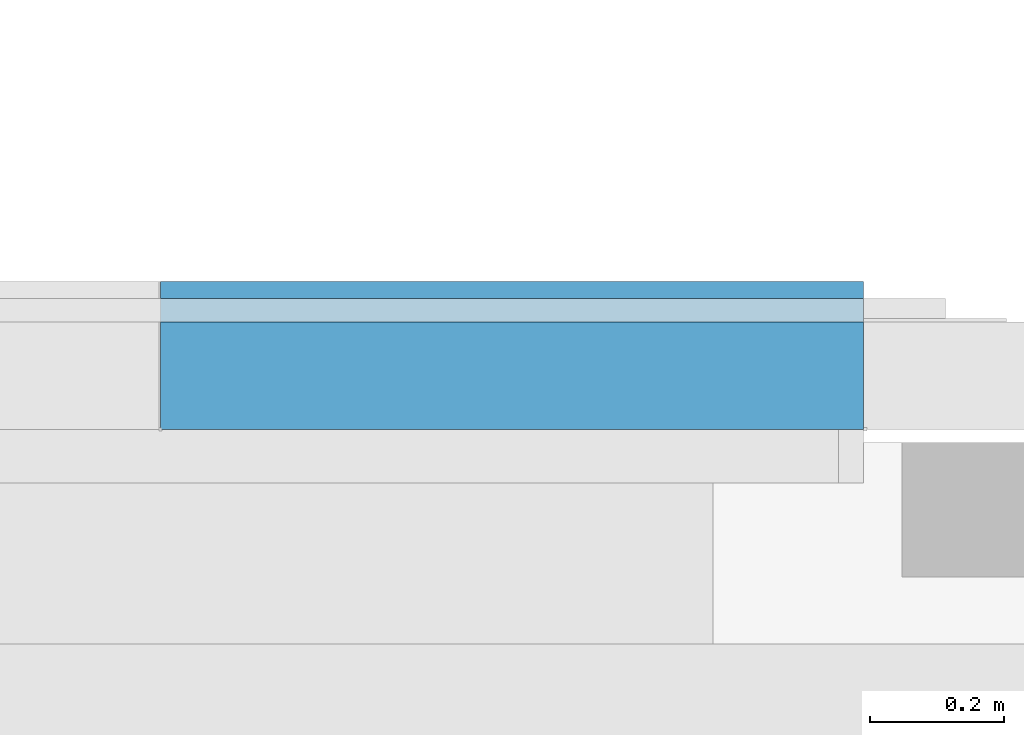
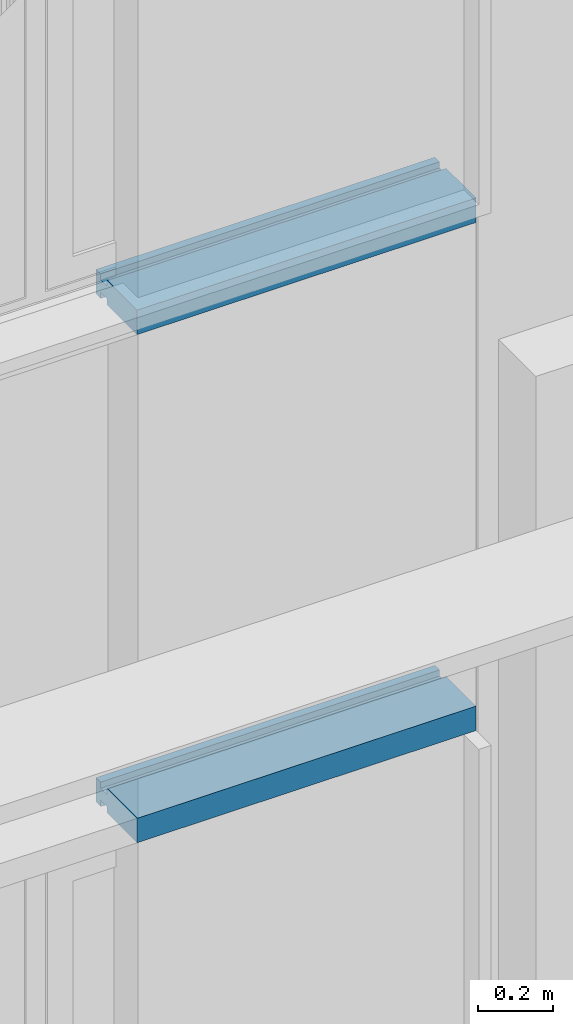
# One storey, part 127 of 302: 2 members, 1 element without a shape of its own.
"""IFC2X3 building model written with IfcOpenShell, lengths in metres."""

from ifc_helpers import new_model, entity, si_unit, converted_unit, derived_unit, direction, frame, origin, place, context, subcontext, project, spatial, polyline, outline, extrude, source, transform, mapped, material, type_object, type_shapes, element, aggregate, save


model = new_model("IFC2X3")

# Units and contexts
model_context = context("Model", 3, precision=1e-05, world=origin(), true_north=direction((6.12303176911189e-17, 1.0)))
body_context = subcontext(model_context, "Body", "Model", "MODEL_VIEW")
ifc_project = project(units=[si_unit("LENGTHUNIT", "METRE"), si_unit("AREAUNIT", "SQUARE_METRE"), si_unit("VOLUMEUNIT", "CUBIC_METRE"), converted_unit("PLANEANGLEUNIT", "DEGREE", entity("IfcRatioMeasure", 0.0174532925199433), si_unit("PLANEANGLEUNIT", "RADIAN"), dimensions=[0, 0, 0, 0, 0, 0, 0]), si_unit("MASSUNIT", "GRAM", prefix="KILO"), derived_unit("MASSDENSITYUNIT", [(si_unit("MASSUNIT", "GRAM", prefix="KILO"), 1), (si_unit("LENGTHUNIT", "METRE"), -3)]), derived_unit("MOMENTOFINERTIAUNIT", [(si_unit("LENGTHUNIT", "METRE"), 4)]), si_unit("TIMEUNIT", "SECOND"), si_unit("FREQUENCYUNIT", "HERTZ"), si_unit("THERMODYNAMICTEMPERATUREUNIT", "DEGREE_CELSIUS"), derived_unit("THERMALTRANSMITTANCEUNIT", [(si_unit("MASSUNIT", "GRAM", prefix="KILO"), 1), (si_unit("THERMODYNAMICTEMPERATUREUNIT", "KELVIN"), -1), (si_unit("TIMEUNIT", "SECOND"), -3)]), derived_unit("VOLUMETRICFLOWRATEUNIT", [(si_unit("LENGTHUNIT", "METRE"), 3), (si_unit("TIMEUNIT", "SECOND"), -1)]), si_unit("ELECTRICCURRENTUNIT", "AMPERE"), si_unit("ELECTRICVOLTAGEUNIT", "VOLT"), si_unit("POWERUNIT", "WATT"), si_unit("FORCEUNIT", "NEWTON", prefix="KILO"), si_unit("ILLUMINANCEUNIT", "LUX"), si_unit("LUMINOUSFLUXUNIT", "LUMEN"), si_unit("LUMINOUSINTENSITYUNIT", "CANDELA"), derived_unit("USERDEFINED", [(si_unit("MASSUNIT", "GRAM", prefix="KILO"), -1), (si_unit("LENGTHUNIT", "METRE"), -2), (si_unit("TIMEUNIT", "SECOND"), 3), (si_unit("LUMINOUSFLUXUNIT", "LUMEN"), 1)]), derived_unit("LINEARVELOCITYUNIT", [(si_unit("LENGTHUNIT", "METRE"), 1), (si_unit("TIMEUNIT", "SECOND"), -1)]), si_unit("PRESSUREUNIT", "PASCAL"), derived_unit("USERDEFINED", [(si_unit("LENGTHUNIT", "METRE"), -2), (si_unit("MASSUNIT", "GRAM", prefix="KILO"), 1), (si_unit("TIMEUNIT", "SECOND"), -2)]), derived_unit("LINEARFORCEUNIT", [(si_unit("MASSUNIT", "GRAM", prefix="KILO"), 1), (si_unit("LENGTHUNIT", "METRE"), 1), (si_unit("TIMEUNIT", "SECOND"), -2), (si_unit("LENGTHUNIT", "METRE"), -1)]), derived_unit("PLANARFORCEUNIT", [(si_unit("MASSUNIT", "GRAM", prefix="KILO"), 1), (si_unit("LENGTHUNIT", "METRE"), 1), (si_unit("TIMEUNIT", "SECOND"), -2), (si_unit("LENGTHUNIT", "METRE"), -2)])], contexts=[model_context])

# Site, building, storey
site_placement = place(None, origin())
site = spatial("IfcSite", under=ifc_project, at=site_placement, Name="Default", CompositionType="ELEMENT")
building_placement = place(site_placement, origin())
building = spatial("IfcBuilding", under=site, at=building_placement, CompositionType="ELEMENT")
storey_placement = place(building_placement, frame((0.0, 0.0, -1.3)))
storey = spatial("IfcBuildingStorey", under=building, at=storey_placement, Name="00_EG", CompositionType="ELEMENT", Elevation=-1.3)

# Curtain wall, members
curtain_wall_type = type_object("IfcCurtainWallType", Name="Fassade:Curtain Wall 1", PredefinedType="NOTDEFINED")
curtain_wall_placement = place(storey_placement, frame((0.0, 0.0, 1.3)))
curtain_wall = element("IfcCurtainWall", 1, at=curtain_wall_placement, inside=storey, type_object=curtain_wall_type, Name="Fassade:Curtain Wall 1", ObjectType="Fassade:Curtain Wall 1")
ifc_material = material(Name="Prepainted_Steel-ArcelorMittal_Construction_HAIRULTRA-35-CORAL-4309-[RAL_3000]")
member_type = type_object("IfcMemberType", Name="Rectangular Mullion:Fassadenrahmen Typ 1", PredefinedType="MULLION", material=ifc_material)
shared_shape = source(origin(), body_context, "Body", "SweptSolid", [
    extrude(outline(polyline([(-0.065, -0.04), (-0.04, -0.04), (-0.04, -0.02), (-0.00499999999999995, -0.02), (-0.00499999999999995, -0.04), (0.155, -0.04), (0.155, 0.04), (-0.00499999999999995, 0.04), (-0.00499999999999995, 0.02), (-0.04, 0.02), (-0.04, 0.04), (-0.065, 0.04), (-0.065, -0.04)])), frame((0.0, 0.155, -1.04750000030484), z_axis=(0.0, 0.0, 1.0), x_axis=(0.0, -1.0, 0.0)), (0.0, 0.0, 1.0), 1.04750000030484),
])
type_shapes(member_type, [shared_shape])
member_1_placement = place(storey_placement, frame((-211.610111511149, 45.578088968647, 4.06999999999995), z_axis=(-1.0, 0.0, 0.0), x_axis=(0.0, 0.0, 1.0)))
member_1 = element("IfcMember", 2, at=member_1_placement, type_object=member_type, material=ifc_material, Name="Rectangular Mullion:Fassadenrahmen Typ 1", ObjectType="Rectangular Mullion:Fassadenrahmen Typ 1", context=body_context, shape_type="MappedRepresentation", body=[
    mapped(shared_shape, transform((0.0, 0.0, 0.0), scale=1.0)),
])
member_2_placement = place(storey_placement, frame((-211.610111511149, 45.578088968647, 5.73), z_axis=(-1.0, 0.0, 0.0), x_axis=(0.0, 0.0, 1.0)))
member_2 = element("IfcMember", 3, at=member_2_placement, type_object=member_type, material=ifc_material, Name="Rectangular Mullion:Fassadenrahmen Typ 1", ObjectType="Rectangular Mullion:Fassadenrahmen Typ 1", context=body_context, shape_type="MappedRepresentation", body=[
    mapped(shared_shape, transform((0.0, 0.0, 0.0), scale=1.0)),
])
aggregate(curtain_wall, [member_1, member_2])

save(model, "model.ifc")
